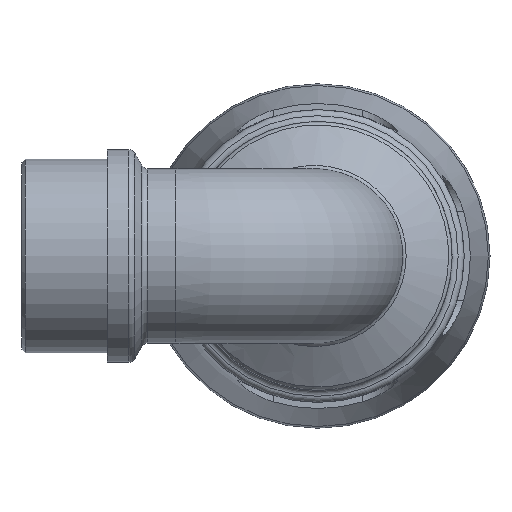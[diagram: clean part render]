
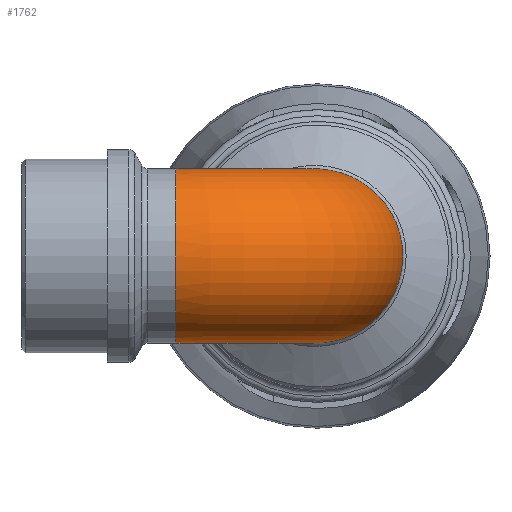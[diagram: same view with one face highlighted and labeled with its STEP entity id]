
A CAD part, left-side view. The second image highlights one B-rep face of the part: STEP entity #1762.
In plain terms, the highlighted toroidal (fillet/blend) face has major radius 34.998 mm and minor radius 21.511 mm.
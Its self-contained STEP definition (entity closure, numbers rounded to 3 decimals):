
#236=B_SPLINE_CURVE_WITH_KNOTS('',3,(#2685,#2686,#2687,#2688,#2689,#2690,
#2691,#2692,#2693,#2694,#2695,#2696,#2697,#2698,#2699,#2700,#2701,#2702,
#2703,#2704),.UNSPECIFIED.,.T.,.F.,(4,1,1,1,1,1,1,1,1,1,1,1,1,1,1,1,1,4),
(-3.142,-2.917,-2.693,-2.244,
-1.795,-1.346,-0.748,-0.449,
-0.299,-0.15,0.449,0.898,
1.346,1.795,2.244,2.693,2.917,
3.142),.UNSPECIFIED.);
#357=FACE_BOUND('',#512,.T.);
#389=FACE_OUTER_BOUND('',#511,.T.);
#511=EDGE_LOOP('',(#1167));
#512=EDGE_LOOP('',(#1168));
#634=CIRCLE('',#1873,21.511);
#731=VERTEX_POINT('',#2580);
#733=VERTEX_POINT('',#2683);
#894=EDGE_CURVE('',#731,#731,#634,.T.);
#896=EDGE_CURVE('',#733,#733,#236,.T.);
#1167=ORIENTED_EDGE('',*,*,#896,.F.);
#1168=ORIENTED_EDGE('',*,*,#894,.T.);
#1632=TOROIDAL_SURFACE('',#1887,34.998,21.511);
#1762=ADVANCED_FACE('',(#389,#357),#1632,.T.);
#1873=AXIS2_PLACEMENT_3D('',#2581,#2091,#2092);
#1887=AXIS2_PLACEMENT_3D('',#2952,#2120,#2121);
#2091=DIRECTION('center_axis',(0.,-1.,0.));
#2092=DIRECTION('ref_axis',(-1.,0.,0.));
#2120=DIRECTION('center_axis',(0.,0.,1.));
#2121=DIRECTION('ref_axis',(1.,0.,0.));
#2580=CARTESIAN_POINT('',(21.511,34.998,0.));
#2581=CARTESIAN_POINT('Origin',(0.,34.998,0.));
#2683=CARTESIAN_POINT('',(26.763,24.317,0.));
#2685=CARTESIAN_POINT('Ctrl Pts',(26.763,24.318,0.));
#2686=CARTESIAN_POINT('Ctrl Pts',(26.763,24.318,1.638));
#2687=CARTESIAN_POINT('Ctrl Pts',(26.761,23.837,4.915));
#2688=CARTESIAN_POINT('Ctrl Pts',(26.77,21.174,11.019));
#2689=CARTESIAN_POINT('Ctrl Pts',(26.86,15.467,17.301));
#2690=CARTESIAN_POINT('Ctrl Pts',(27.001,6.314,21.589));
#2691=CARTESIAN_POINT('Ctrl Pts',(27.115,-4.923,21.804));
#2692=CARTESIAN_POINT('Ctrl Pts',(27.174,-13.953,16.882));
#2693=CARTESIAN_POINT('Ctrl Pts',(27.197,-18.408,10.537));
#2694=CARTESIAN_POINT('Ctrl Pts',(27.206,-20.05,6.478));
#2695=CARTESIAN_POINT('Ctrl Pts',(27.213,-21.57,0.076));
#2696=CARTESIAN_POINT('Ctrl Pts',(27.207,-20.16,-8.966));
#2697=CARTESIAN_POINT('Ctrl Pts',(27.169,-12.989,-17.608));
#2698=CARTESIAN_POINT('Ctrl Pts',(27.104,-3.797,-21.773));
#2699=CARTESIAN_POINT('Ctrl Pts',(27.001,6.312,-21.594));
#2700=CARTESIAN_POINT('Ctrl Pts',(26.861,15.469,-17.299));
#2701=CARTESIAN_POINT('Ctrl Pts',(26.77,21.173,-11.02));
#2702=CARTESIAN_POINT('Ctrl Pts',(26.761,23.837,-4.915));
#2703=CARTESIAN_POINT('Ctrl Pts',(26.763,24.318,-1.638));
#2704=CARTESIAN_POINT('Ctrl Pts',(26.763,24.318,0.));
#2952=CARTESIAN_POINT('Origin',(34.998,34.998,0.));
